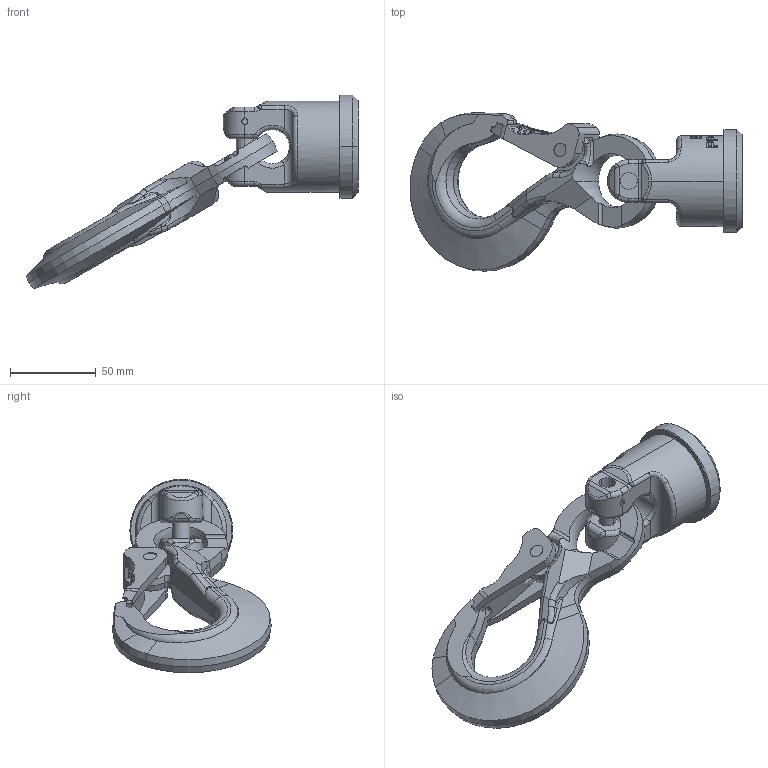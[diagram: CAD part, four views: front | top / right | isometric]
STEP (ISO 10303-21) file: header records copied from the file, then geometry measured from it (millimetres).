
FILE_DESCRIPTION((''),'2;1');
FILE_NAME('001-M31347-P-40_ASM','2018-04-27T',('Anja.Joas'),(''),'PRO/ENGINEER BY PARAMETRIC TECHNOLOGY CORPORATION, 2011490','PRO/ENGINEER BY PARAMETRIC TECHNOLOGY CORPORATION, 2011490','');
FILE_SCHEMA(('CONFIG_CONTROL_DESIGN'));
Length unit declared in the file: millimetre
Products named in the file (6): 001-M31347-P-20; 001-M31347-P-50; 001-M13022-001; 001-M31177-001; 001-M13022-002_ASM; 001-M31347-P-40_ASM
Assembly tree (5 placements, depth 3):
  001-M31347-P-40_ASM
    001-M31347-P-20
    001-M31347-P-50
    001-M13022-002_ASM
      001-M13022-001
      001-M31177-001
Bounding box: 193.63 x 92.48 x 112.88 mm (x, y, z)
Volume: 242198.4 mm3; surface area: 52354.5 mm2
Topology: 4 solids, 4 shells, 638 faces, 1712 edges, 1086 vertices
Faces by surface type: plane 357, cylinder 119, bspline 56, cone 40, torus 36, sphere 30
Entity records: 23361 total; most frequent: CARTESIAN_POINT 8298, ORIENTED_EDGE 3368, DIRECTION 2779, EDGE_CURVE 1684, VERTEX_POINT 1086, AXIS2_PLACEMENT_3D 1026, VECTOR 727, LINE 727
